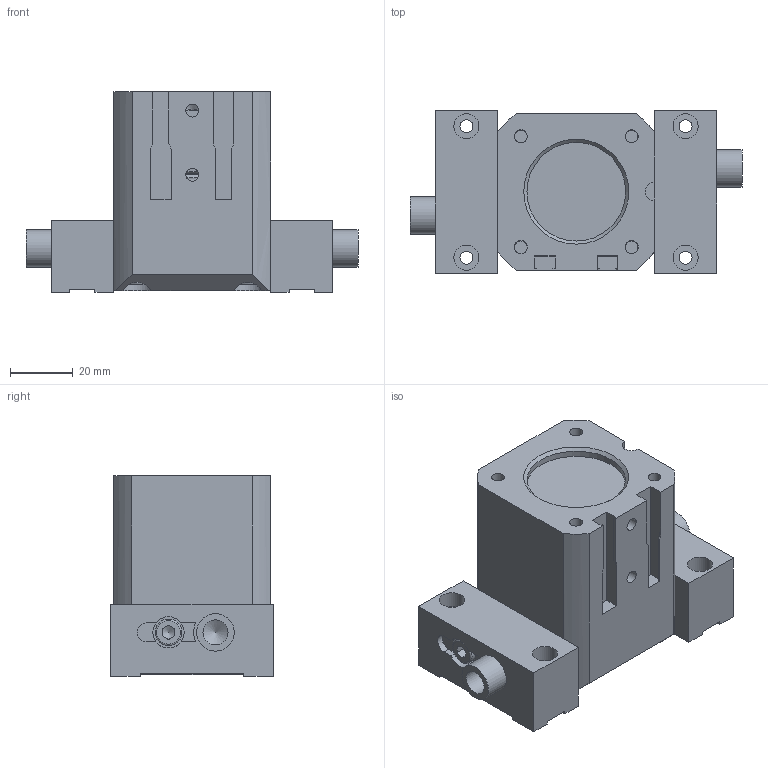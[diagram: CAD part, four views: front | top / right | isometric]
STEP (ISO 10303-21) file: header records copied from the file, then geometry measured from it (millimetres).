
FILE_DESCRIPTION((''),'2;1');
FILE_NAME('T:\CAD\Standard\Daten\3D-Datenbank\GP\4 - 3D-CAD-Daten GP 050-125\GP063\step-Daten\G-GP063-l1-GÖ+UB closed.stp','2013-11-07T14:13:23',('Dirk'),(''),'Autodesk Inventor 2011','Autodesk Inventor 2011','');
FILE_SCHEMA(('AUTOMOTIVE_DESIGN { 1 0 10303 214 1 1 1 1 }'));
Length unit declared in the file: millimetre
Products named in the file (1): Bauteil86
Bounding box: 106.01 x 52 x 64 mm (x, y, z)
Volume: 168217.2 mm3; surface area: 56700.2 mm2
Topology: 1 solids, 16 shells, 382 faces, 991 edges, 645 vertices
Faces by surface type: plane 223, cylinder 106, cone 34, torus 18, bspline 1
Full cylindrical faces by diameter (mm): 2.459 x2, 4.134 x12, 5 x2, 5.5 x2, 6.647 x1, 8 x7, 8.5 x7, 10 x8, 12 x6, 14 x6, 16 x2, 18.6 x1, 21.1 x1, 25 x1, 28.9 x1, 31.5 x1, 33 x1, 33.6 x2, 35.5 x2, 40 x5
Entity records: 12707 total; most frequent: CARTESIAN_POINT 3668, DIRECTION 1765, ORIENTED_EDGE 1620, EDGE_CURVE 810, AXIS2_PLACEMENT_3D 667, VERTEX_POINT 582, EDGE_LOOP 578, VECTOR 431
